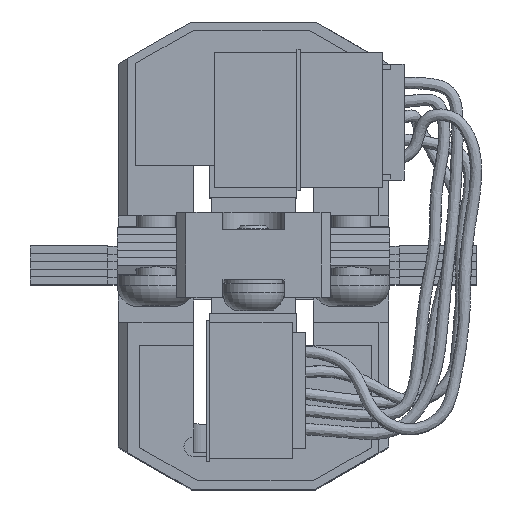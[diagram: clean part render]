
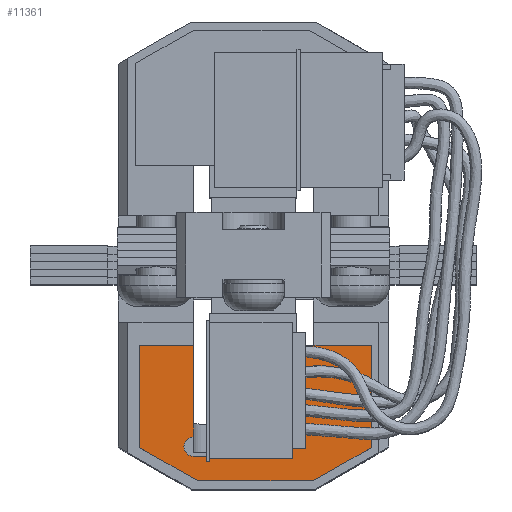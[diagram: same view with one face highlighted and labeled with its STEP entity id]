
A CAD part, top view. The second image highlights one B-rep face of the part: STEP entity #11361.
In plain terms, the highlighted planar face has unit normal (0, 0, 1).
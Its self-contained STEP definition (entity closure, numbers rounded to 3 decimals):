
#155 = CARTESIAN_POINT ( 'NONE',  ( -1.597, -10.4, 43.9 ) ) ;
#407 = EDGE_CURVE ( 'NONE', #43364, #7071, #16195, .T. ) ;
#1434 = CARTESIAN_POINT ( 'NONE',  ( -1.597, -9.4, 43.9 ) ) ;
#1580 = CIRCLE ( 'NONE', #11680, 0.5 ) ;
#1824 = DIRECTION ( 'NONE',  ( -1., 0., 0. ) ) ;
#2482 = VERTEX_POINT ( 'NONE', #36885 ) ;
#2815 = CARTESIAN_POINT ( 'NONE',  ( -1.597, -4.65, 43.9 ) ) ;
#2983 = LINE ( 'NONE', #15643, #42416 ) ;
#4338 = CARTESIAN_POINT ( 'NONE',  ( 3.103, -11.65, 43.9 ) ) ;
#5079 = CARTESIAN_POINT ( 'NONE',  ( -3.097, -10.4, 43.9 ) ) ;
#5155 = EDGE_LOOP ( 'NONE', ( #34594, #46590, #39786, #27807, #36852, #32804, #36650, #42880, #43435, #19754, #5701, #32844 ) ) ;
#5158 = CARTESIAN_POINT ( 'NONE',  ( -5.897, -11.65, 43.9 ) ) ;
#5318 = VERTEX_POINT ( 'NONE', #41886 ) ;
#5416 = DIRECTION ( 'NONE',  ( 0., -1., 0. ) ) ;
#5618 = PLANE ( 'NONE',  #13671 ) ;
#5701 = ORIENTED_EDGE ( 'NONE', *, *, #9741, .F. ) ;
#5811 = LINE ( 'NONE', #8559, #33431 ) ;
#6290 = VERTEX_POINT ( 'NONE', #1434 ) ;
#6552 = CIRCLE ( 'NONE', #10202, 0.5 ) ;
#6631 = CARTESIAN_POINT ( 'NONE',  ( -5.897, -4.65, 43.9 ) ) ;
#7071 = VERTEX_POINT ( 'NONE', #155 ) ;
#8559 = CARTESIAN_POINT ( 'NONE',  ( 6.103, -11.65, 43.9 ) ) ;
#9045 = DIRECTION ( 'NONE',  ( 0., 0., -1. ) ) ;
#9674 = CARTESIAN_POINT ( 'NONE',  ( -2.897, -11.65, 43.9 ) ) ;
#9741 = EDGE_CURVE ( 'NONE', #38688, #2482, #23360, .T. ) ;
#10202 = AXIS2_PLACEMENT_3D ( 'NONE', #30359, #42896, #38491 ) ;
#10209 = VERTEX_POINT ( 'NONE', #20235 ) ;
#11361 = ADVANCED_FACE ( 'NONE', ( #44324 ), #5618, .F. ) ;
#11680 = AXIS2_PLACEMENT_3D ( 'NONE', #26853, #9045, #1824 ) ;
#13135 = CARTESIAN_POINT ( 'NONE',  ( -3.097, -4.65, 43.9 ) ) ;
#13671 = AXIS2_PLACEMENT_3D ( 'NONE', #35657, #29019, #45550 ) ;
#13723 = VERTEX_POINT ( 'NONE', #37610 ) ;
#14224 = VERTEX_POINT ( 'NONE', #19504 ) ;
#14493 = EDGE_CURVE ( 'NONE', #6290, #7071, #1580, .T. ) ;
#15140 = DIRECTION ( 'NONE',  ( -1., 0., 0. ) ) ;
#15476 = EDGE_CURVE ( 'NONE', #5318, #41941, #2983, .T. ) ;
#15643 = CARTESIAN_POINT ( 'NONE',  ( 6.103, -4.65, 43.9 ) ) ;
#16087 = EDGE_CURVE ( 'NONE', #5318, #10209, #16147, .T. ) ;
#16147 = LINE ( 'NONE', #13135, #42093 ) ;
#16195 = LINE ( 'NONE', #30599, #28063 ) ;
#17359 = DIRECTION ( 'NONE',  ( -1., 0., 0. ) ) ;
#17746 = VERTEX_POINT ( 'NONE', #4338 ) ;
#19504 = CARTESIAN_POINT ( 'NONE',  ( 6.103, -4.65, 43.9 ) ) ;
#19754 = ORIENTED_EDGE ( 'NONE', *, *, #25130, .T. ) ;
#20235 = CARTESIAN_POINT ( 'NONE',  ( -3.097, -9.4, 43.9 ) ) ;
#20266 = VECTOR ( 'NONE', #15140, 1000. ) ;
#21044 = VECTOR ( 'NONE', #34472, 1000. ) ;
#21142 = EDGE_CURVE ( 'NONE', #14224, #33351, #39460, .T. ) ;
#22202 = VECTOR ( 'NONE', #37520, 1000. ) ;
#22581 = DIRECTION ( 'NONE',  ( 0., 1., 0. ) ) ;
#23018 = CARTESIAN_POINT ( 'NONE',  ( 6.103, -11.65, 43.9 ) ) ;
#23360 = LINE ( 'NONE', #33084, #21044 ) ;
#25130 = EDGE_CURVE ( 'NONE', #41941, #2482, #30703, .T. ) ;
#26853 = CARTESIAN_POINT ( 'NONE',  ( -1.597, -9.9, 43.9 ) ) ;
#27807 = ORIENTED_EDGE ( 'NONE', *, *, #41807, .F. ) ;
#28063 = VECTOR ( 'NONE', #42357, 1000. ) ;
#29019 = DIRECTION ( 'NONE',  ( 0., 0., -1. ) ) ;
#30359 = CARTESIAN_POINT ( 'NONE',  ( -3.097, -9.9, 43.9 ) ) ;
#30494 = DIRECTION ( 'NONE',  ( 0., -1., 0. ) ) ;
#30599 = CARTESIAN_POINT ( 'NONE',  ( -3.097, -10.4, 43.9 ) ) ;
#30703 = LINE ( 'NONE', #5158, #39101 ) ;
#31830 = LINE ( 'NONE', #23018, #22202 ) ;
#32132 = CARTESIAN_POINT ( 'NONE',  ( 6.103, -4.65, 43.9 ) ) ;
#32804 = ORIENTED_EDGE ( 'NONE', *, *, #407, .F. ) ;
#32844 = ORIENTED_EDGE ( 'NONE', *, *, #36367, .F. ) ;
#33084 = CARTESIAN_POINT ( 'NONE',  ( -5.897, -9.95, 43.9 ) ) ;
#33304 = VECTOR ( 'NONE', #22581, 1000. ) ;
#33351 = VERTEX_POINT ( 'NONE', #2815 ) ;
#33395 = CARTESIAN_POINT ( 'NONE',  ( -1.597, -10.4, 43.9 ) ) ;
#33431 = VECTOR ( 'NONE', #46632, 1000. ) ;
#33612 = DIRECTION ( 'NONE',  ( -0.87, -0.493, 0. ) ) ;
#34472 = DIRECTION ( 'NONE',  ( -0.87, 0.493, 0. ) ) ;
#34594 = ORIENTED_EDGE ( 'NONE', *, *, #38304, .F. ) ;
#35140 = CARTESIAN_POINT ( 'NONE',  ( 6.103, -9.95, 43.9 ) ) ;
#35657 = CARTESIAN_POINT ( 'NONE',  ( 6.103, -11.65, 43.9 ) ) ;
#36367 = EDGE_CURVE ( 'NONE', #17746, #38688, #5811, .T. ) ;
#36650 = ORIENTED_EDGE ( 'NONE', *, *, #44265, .T. ) ;
#36852 = ORIENTED_EDGE ( 'NONE', *, *, #14493, .T. ) ;
#36885 = CARTESIAN_POINT ( 'NONE',  ( -5.897, -9.95, 43.9 ) ) ;
#37127 = LINE ( 'NONE', #35140, #45576 ) ;
#37520 = DIRECTION ( 'NONE',  ( 0., -1., 0. ) ) ;
#37610 = CARTESIAN_POINT ( 'NONE',  ( 6.103, -9.95, 43.9 ) ) ;
#38304 = EDGE_CURVE ( 'NONE', #13723, #17746, #37127, .T. ) ;
#38491 = DIRECTION ( 'NONE',  ( -1., 0., 0. ) ) ;
#38688 = VERTEX_POINT ( 'NONE', #9674 ) ;
#39101 = VECTOR ( 'NONE', #5416, 1000. ) ;
#39460 = LINE ( 'NONE', #32132, #20266 ) ;
#39786 = ORIENTED_EDGE ( 'NONE', *, *, #21142, .T. ) ;
#41807 = EDGE_CURVE ( 'NONE', #6290, #33351, #44037, .T. ) ;
#41886 = CARTESIAN_POINT ( 'NONE',  ( -3.097, -4.65, 43.9 ) ) ;
#41941 = VERTEX_POINT ( 'NONE', #6631 ) ;
#42093 = VECTOR ( 'NONE', #30494, 1000. ) ;
#42357 = DIRECTION ( 'NONE',  ( 1., 0., 0. ) ) ;
#42416 = VECTOR ( 'NONE', #17359, 1000. ) ;
#42880 = ORIENTED_EDGE ( 'NONE', *, *, #16087, .F. ) ;
#42896 = DIRECTION ( 'NONE',  ( 0., 0., -1. ) ) ;
#43364 = VERTEX_POINT ( 'NONE', #5079 ) ;
#43435 = ORIENTED_EDGE ( 'NONE', *, *, #15476, .T. ) ;
#44037 = LINE ( 'NONE', #33395, #33304 ) ;
#44265 = EDGE_CURVE ( 'NONE', #43364, #10209, #6552, .T. ) ;
#44324 = FACE_OUTER_BOUND ( 'NONE', #5155, .T. ) ;
#45082 = EDGE_CURVE ( 'NONE', #14224, #13723, #31830, .T. ) ;
#45550 = DIRECTION ( 'NONE',  ( -1., 0., 0. ) ) ;
#45576 = VECTOR ( 'NONE', #33612, 1000. ) ;
#46590 = ORIENTED_EDGE ( 'NONE', *, *, #45082, .F. ) ;
#46632 = DIRECTION ( 'NONE',  ( -1., 0., 0. ) ) ;
